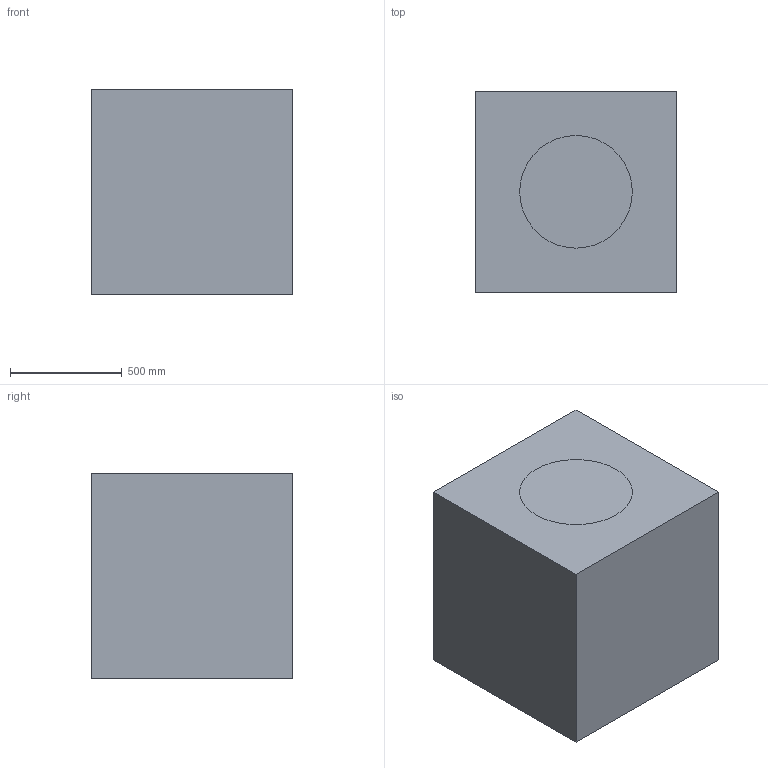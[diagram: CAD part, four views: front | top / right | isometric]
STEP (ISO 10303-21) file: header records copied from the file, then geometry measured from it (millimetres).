
FILE_DESCRIPTION(('FreeCAD Model'),'2;1');
FILE_NAME('Open CASCADE Shape Model','2026-04-01T10:32:58',('FreeCAD'),( 'FreeCAD'),'Open CASCADE STEP processor 7.8','FreeCAD','Unknown');
FILE_SCHEMA(('AUTOMOTIVE_DESIGN { 1 0 10303 214 1 1 1 1 }'));
Length unit declared in the file: millimetre
Products named in the file (1): Open CASCADE STEP translator 7.8 4
Bounding box: 900 x 900 x 920 mm (x, y, z)
Surface area: 5403842.1 mm2
Topology: 2 solids, 2 shells, 9 faces, 15 edges, 10 vertices
Faces by surface type: plane 8, cylinder 1
Full cylindrical faces by diameter (mm): 504 x1
Entity records: 219 total; most frequent: DIRECTION 37, CARTESIAN_POINT 35, ORIENTED_EDGE 30, EDGE_CURVE 15, LINE 13, VECTOR 13, AXIS2_PLACEMENT_3D 12, VERTEX_POINT 10
